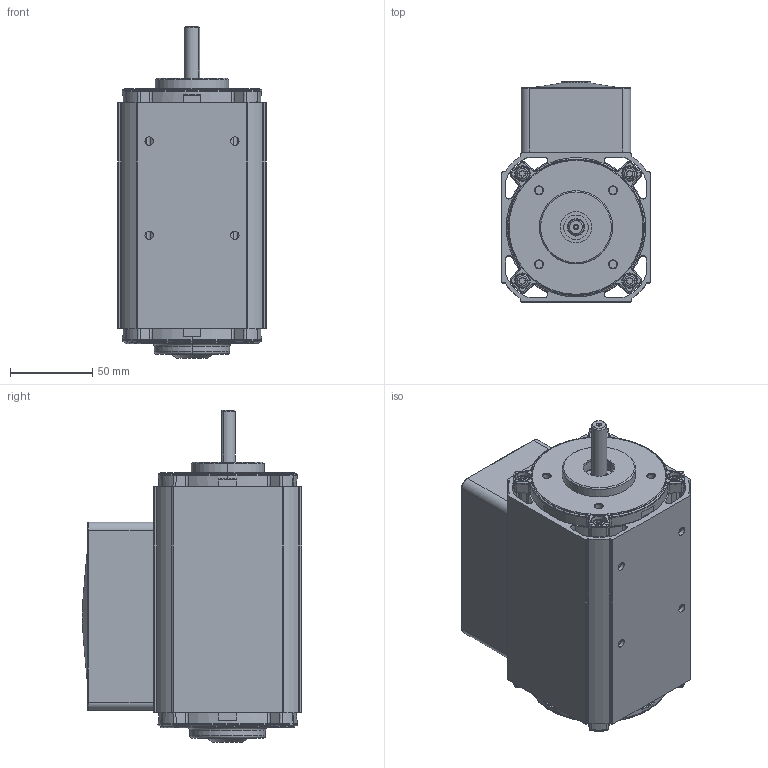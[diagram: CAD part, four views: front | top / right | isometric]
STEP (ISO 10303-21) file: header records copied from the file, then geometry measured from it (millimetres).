
FILE_DESCRIPTION (( 'STEP AP203' ), '1' );
FILE_NAME ('OUTLINE AC8060NV.STEP', '2006-09-21T13:50:54', ( 'Groschopp' ), ( 'Groschopp' ), 'SwSTEP 2.0', 'SolidWorks 2007', '' );
FILE_SCHEMA (( 'CONFIG_CONTROL_DESIGN' ));
Length unit declared in the file: inch
Products named in the file (1): OUTLINE AC8060NV
Bounding box: 90.25 x 133.49 x 201.5 mm (x, y, z)
Surface area: 153343.6 mm2 (no closed solid volume)
Topology: 0 solids, 35 shells, 865 faces, 2618 edges, 1747 vertices
Faces by surface type: plane 305, cylinder 264, bspline 112, torus 85, cone 83, sphere 16
Entity records: 34623 total; most frequent: CARTESIAN_POINT 12171, ORIENTED_EDGE 4606, DIRECTION 4514, EDGE_CURVE 2618, AXIS2_PLACEMENT_3D 1757, VERTEX_POINT 1747, CIRCLE 1003, VECTOR 1000
